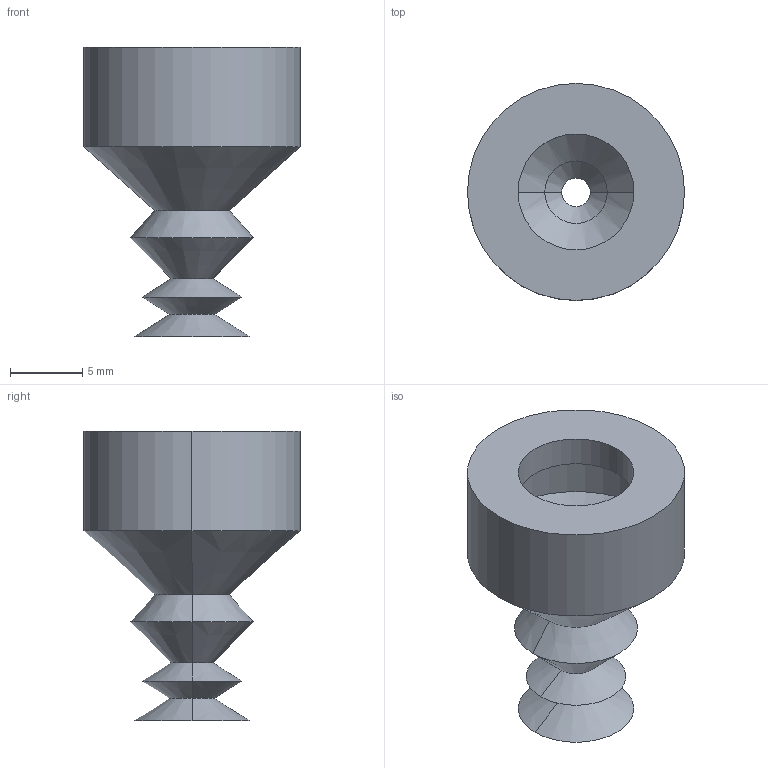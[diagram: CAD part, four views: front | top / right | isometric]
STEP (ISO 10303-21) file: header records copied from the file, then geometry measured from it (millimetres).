
FILE_DESCRIPTION (( 'STEP AP214' ), '1' );
FILE_NAME ('VSH3-M8.STEP', '2019-12-02T08:20:50', ( '微软用户' ), ( '微软中国' ), 'SwSTEP 2.0', 'SolidWorks 2016', '' );
FILE_SCHEMA (( 'AUTOMOTIVE_DESIGN' ));
Length unit declared in the file: millimetre
Products named in the file (1): VSH3-M8
Bounding box: 15 x 15 x 20 mm (x, y, z)
Volume: 520.8 mm3; surface area: 1688.7 mm2
Topology: 1 solids, 1 shells, 36 faces, 72 edges, 40 vertices
Faces by surface type: cone 24, cylinder 8, plane 4
Entity records: 962 total; most frequent: DIRECTION 186, CARTESIAN_POINT 149, ORIENTED_EDGE 144, AXIS2_PLACEMENT_3D 77, EDGE_CURVE 72, EDGE_LOOP 40, CIRCLE 40, VERTEX_POINT 40
